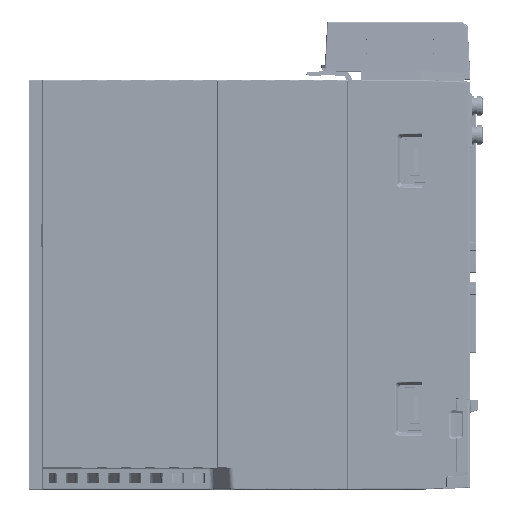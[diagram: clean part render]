
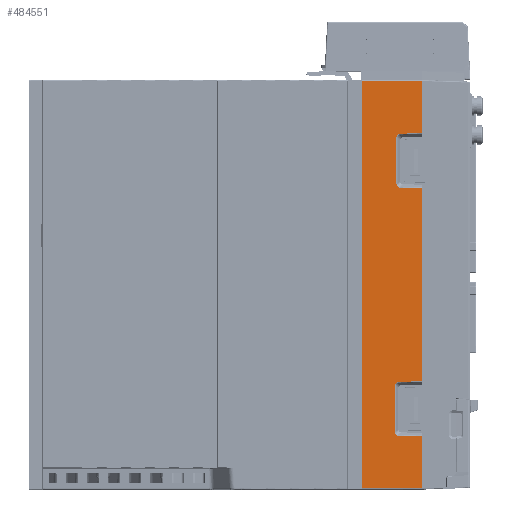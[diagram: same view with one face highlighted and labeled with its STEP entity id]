
A CAD part, left-side view. The second image highlights one B-rep face of the part: STEP entity #484551.
In plain terms, the highlighted planar face has unit normal (-1, 0, 0) as drawn and (0, 0, 1) by its records, which use the part's own axes.
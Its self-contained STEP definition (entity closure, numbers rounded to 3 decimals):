
#448144=DIRECTION('',(0.,1.,0.));
#448145=VECTOR('',#448144,24.833);
#448146=CARTESIAN_POINT('',(-84.5,54.185,13.653));
#448147=LINE('',#448146,#448145);
#448982=DIRECTION('',(-1.,0.,0.));
#448983=VECTOR('',#448982,21.545);
#448984=CARTESIAN_POINT('',(84.5,79.018,13.653));
#448985=LINE('',#448984,#448983);
#448989=DIRECTION('',(1.,0.,0.));
#448990=VECTOR('',#448989,169.);
#448991=CARTESIAN_POINT('',(-84.5,54.185,13.653));
#448992=LINE('',#448991,#448990);
#448996=DIRECTION('',(-1.,0.,0.));
#448997=VECTOR('',#448996,21.545);
#448998=CARTESIAN_POINT('',(-62.955,79.018,
13.653));
#448999=LINE('',#448998,#448997);
#449003=DIRECTION('',(-0.028,1.,
0.));
#449004=VECTOR('',#449003,8.898);
#449005=CARTESIAN_POINT('',(-62.708,70.123,
13.653));
#449006=LINE('',#449005,#449004);
#449010=DIRECTION('',(-0.028,-1.,
0.));
#449011=VECTOR('',#449010,8.898);
#449012=CARTESIAN_POINT('',(-40.045,79.018,
13.653));
#449013=LINE('',#449012,#449011);
#449017=DIRECTION('',(-1.,0.,0.));
#449018=VECTOR('',#449017,80.05);
#449019=CARTESIAN_POINT('',(40.005,79.018,
13.653));
#449020=LINE('',#449019,#449018);
#449024=DIRECTION('',(-0.028,1.,
0.));
#449025=VECTOR('',#449024,9.624);
#449026=CARTESIAN_POINT('',(40.272,69.397,
13.653));
#449027=LINE('',#449026,#449025);
#449031=DIRECTION('',(-0.028,-1.,
0.));
#449032=VECTOR('',#449031,9.624);
#449033=CARTESIAN_POINT('',(62.955,79.018,
13.653));
#449034=LINE('',#449033,#449032);
#450766=CARTESIAN_POINT('',(60.956,67.713,
13.653));
#450767=CARTESIAN_POINT('',(61.18,67.72,
13.653));
#450768=CARTESIAN_POINT('',(61.584,67.782,
13.653));
#450769=CARTESIAN_POINT('',(62.018,68.009,
13.653));
#450770=CARTESIAN_POINT('',(62.393,68.389,
13.653));
#450771=CARTESIAN_POINT('',(62.606,68.802,
13.653));
#450772=CARTESIAN_POINT('',(62.675,69.185,
13.653));
#450773=CARTESIAN_POINT('',(62.688,69.397,
13.653));
#450810=DIRECTION('',(1.,0.,0.));
#450811=VECTOR('',#450810,18.953);
#450812=CARTESIAN_POINT('',(42.003,67.713,
13.653));
#450813=LINE('',#450812,#450811);
#450824=CARTESIAN_POINT('',(40.272,69.397,
13.653));
#450825=CARTESIAN_POINT('',(40.285,69.173,
13.653));
#450826=CARTESIAN_POINT('',(40.358,68.772,
13.653));
#450827=CARTESIAN_POINT('',(40.597,68.344,
13.653));
#450828=CARTESIAN_POINT('',(40.987,67.98,
13.653));
#450829=CARTESIAN_POINT('',(41.406,67.778,
13.653));
#450830=CARTESIAN_POINT('',(41.791,67.72,
13.653));
#450831=CARTESIAN_POINT('',(42.003,67.713,
13.653));
#451113=DIRECTION('',(0.,-1.,0.));
#451114=VECTOR('',#451113,24.833);
#451115=CARTESIAN_POINT('',(84.5,79.018,13.653));
#451116=LINE('',#451115,#451114);
#452061=CARTESIAN_POINT('',(-42.024,68.439,
13.653));
#452062=CARTESIAN_POINT('',(-41.8,68.447,
13.653));
#452063=CARTESIAN_POINT('',(-41.396,68.508,
13.653));
#452064=CARTESIAN_POINT('',(-40.962,68.735,
13.653));
#452065=CARTESIAN_POINT('',(-40.587,69.115,
13.653));
#452066=CARTESIAN_POINT('',(-40.374,69.528,
13.653));
#452067=CARTESIAN_POINT('',(-40.305,69.911,
13.653));
#452068=CARTESIAN_POINT('',(-40.292,70.123,
13.653));
#452111=DIRECTION('',(1.,0.,0.));
#452112=VECTOR('',#452111,18.953);
#452113=CARTESIAN_POINT('',(-60.976,68.439,
13.653));
#452114=LINE('',#452113,#452112);
#452142=CARTESIAN_POINT('',(-62.708,70.123,
13.653));
#452143=CARTESIAN_POINT('',(-62.694,69.9,
13.653));
#452144=CARTESIAN_POINT('',(-62.622,69.498,
13.653));
#452145=CARTESIAN_POINT('',(-62.382,69.07,
13.653));
#452146=CARTESIAN_POINT('',(-61.993,68.706,
13.653));
#452147=CARTESIAN_POINT('',(-61.574,68.504,
13.653));
#452148=CARTESIAN_POINT('',(-61.189,68.447,
13.653));
#452149=CARTESIAN_POINT('',(-60.976,68.439,
13.653));
#470989=CARTESIAN_POINT('',(-84.5,54.185,13.653));
#470990=CARTESIAN_POINT('',(84.5,54.185,13.653));
#470991=VERTEX_POINT('',#470989);
#470992=VERTEX_POINT('',#470990);
#471246=CARTESIAN_POINT('',(84.5,79.018,13.653));
#471247=CARTESIAN_POINT('',(62.955,79.018,
13.653));
#471248=VERTEX_POINT('',#471246);
#471249=VERTEX_POINT('',#471247);
#471250=CARTESIAN_POINT('',(62.688,69.397,
13.653));
#471251=VERTEX_POINT('',#471250);
#471252=VERTEX_POINT('',#450766);
#471253=CARTESIAN_POINT('',(42.003,67.713,
13.653));
#471254=VERTEX_POINT('',#471253);
#471255=VERTEX_POINT('',#450824);
#471256=CARTESIAN_POINT('',(40.005,79.018,
13.653));
#471257=VERTEX_POINT('',#471256);
#471258=CARTESIAN_POINT('',(-40.045,79.018,
13.653));
#471259=VERTEX_POINT('',#471258);
#471260=CARTESIAN_POINT('',(-40.292,70.123,
13.653));
#471261=VERTEX_POINT('',#471260);
#471262=VERTEX_POINT('',#452061);
#471263=CARTESIAN_POINT('',(-60.976,68.439,
13.653));
#471264=VERTEX_POINT('',#471263);
#471265=VERTEX_POINT('',#452142);
#471266=CARTESIAN_POINT('',(-62.955,79.018,
13.653));
#471267=VERTEX_POINT('',#471266);
#471268=CARTESIAN_POINT('',(-84.5,79.018,13.653));
#471269=VERTEX_POINT('',#471268);
#484515=CARTESIAN_POINT('',(85.,99.15,13.653));
#484516=DIRECTION('',(0.,0.,1.));
#484517=DIRECTION('',(-1.,0.,0.));
#484518=AXIS2_PLACEMENT_3D('',#484515,#484516,#484517);
#484519=PLANE('',#484518);
#484521=ORIENTED_EDGE('',*,*,#484520,.F.);
#484523=ORIENTED_EDGE('',*,*,#484522,.T.);
#484524=ORIENTED_EDGE('',*,*,#484506,.F.);
#484525=ORIENTED_EDGE('',*,*,#483798,.T.);
#484527=ORIENTED_EDGE('',*,*,#484526,.F.);
#484529=ORIENTED_EDGE('',*,*,#484528,.F.);
#484531=ORIENTED_EDGE('',*,*,#484530,.T.);
#484533=ORIENTED_EDGE('',*,*,#484532,.T.);
#484535=ORIENTED_EDGE('',*,*,#484534,.T.);
#484537=ORIENTED_EDGE('',*,*,#484536,.F.);
#484538=ORIENTED_EDGE('',*,*,#479487,.F.);
#484540=ORIENTED_EDGE('',*,*,#484539,.F.);
#484542=ORIENTED_EDGE('',*,*,#484541,.T.);
#484544=ORIENTED_EDGE('',*,*,#484543,.T.);
#484546=ORIENTED_EDGE('',*,*,#484545,.T.);
#484548=ORIENTED_EDGE('',*,*,#484547,.F.);
#484549=EDGE_LOOP('',(#484521,#484523,#484524,#484525,#484527,#484529,#484531,
#484533,#484535,#484537,#484538,#484540,#484542,#484544,#484546,#484548));
#484550=FACE_OUTER_BOUND('',#484549,.F.);
#484551=ADVANCED_FACE('',(#484550),#484519,.T.);
#450774=B_SPLINE_CURVE_WITH_KNOTS('',3,(#450766,#450767,#450768,#450769,#450770,
#450771,#450772,#450773),.UNSPECIFIED.,.F.,.F.,(4,1,1,1,1,4),(0.,0.2,0.4,
0.6,0.8,1.),.UNSPECIFIED.);
#450832=B_SPLINE_CURVE_WITH_KNOTS('',3,(#450824,#450825,#450826,#450827,#450828,
#450829,#450830,#450831),.UNSPECIFIED.,.F.,.F.,(4,1,1,1,1,4),(0.,0.2,0.4,
0.6,0.8,1.),.UNSPECIFIED.);
#452069=B_SPLINE_CURVE_WITH_KNOTS('',3,(#452061,#452062,#452063,#452064,#452065,
#452066,#452067,#452068),.UNSPECIFIED.,.F.,.F.,(4,1,1,1,1,4),(0.,0.2,0.4,
0.6,0.8,1.),.UNSPECIFIED.);
#452150=B_SPLINE_CURVE_WITH_KNOTS('',3,(#452142,#452143,#452144,#452145,#452146,
#452147,#452148,#452149),.UNSPECIFIED.,.F.,.F.,(4,1,1,1,1,4),(0.,0.2,0.4,
0.6,0.8,1.),.UNSPECIFIED.);
#479487=EDGE_CURVE('',#471257,#471259,#449020,.T.);
#483798=EDGE_CURVE('',#470991,#471269,#448147,.T.);
#484506=EDGE_CURVE('',#470991,#470992,#448992,.T.);
#484520=EDGE_CURVE('',#471248,#471249,#448985,.T.);
#484522=EDGE_CURVE('',#471248,#470992,#451116,.T.);
#484526=EDGE_CURVE('',#471267,#471269,#448999,.T.);
#484528=EDGE_CURVE('',#471265,#471267,#449006,.T.);
#484530=EDGE_CURVE('',#471265,#471264,#452150,.T.);
#484532=EDGE_CURVE('',#471264,#471262,#452114,.T.);
#484534=EDGE_CURVE('',#471262,#471261,#452069,.T.);
#484536=EDGE_CURVE('',#471259,#471261,#449013,.T.);
#484539=EDGE_CURVE('',#471255,#471257,#449027,.T.);
#484541=EDGE_CURVE('',#471255,#471254,#450832,.T.);
#484543=EDGE_CURVE('',#471254,#471252,#450813,.T.);
#484545=EDGE_CURVE('',#471252,#471251,#450774,.T.);
#484547=EDGE_CURVE('',#471249,#471251,#449034,.T.);
